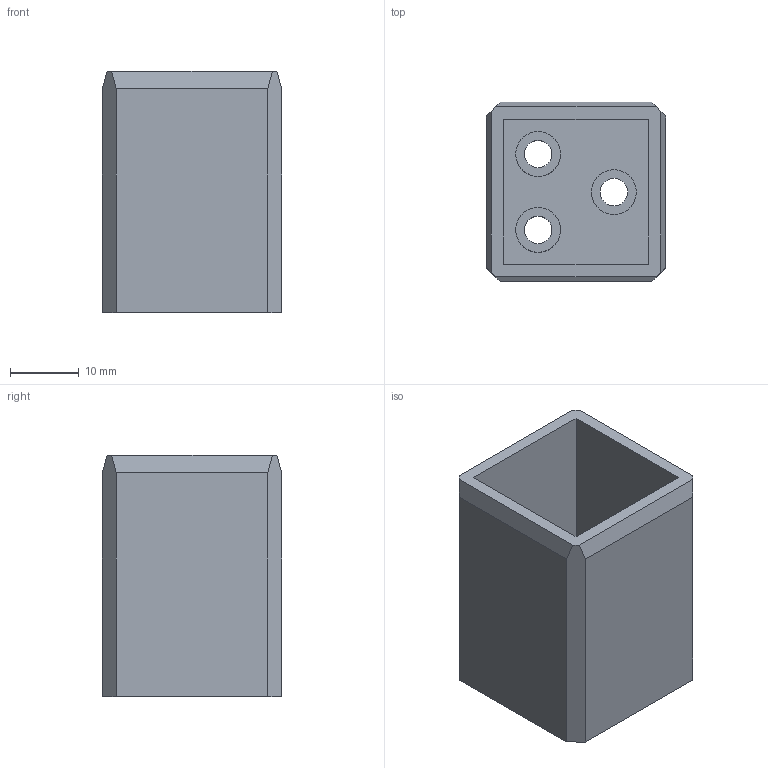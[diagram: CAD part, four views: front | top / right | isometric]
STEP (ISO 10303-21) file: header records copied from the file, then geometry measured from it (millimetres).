
FILE_DESCRIPTION (( 'STEP AP214' ), '1' );
FILE_NAME ('L15511.step', '2024-12-03T16:18:43', ( '' ), ( '' ), 'SwSTEP 2.0', 'SolidWorks 2023', '' );
FILE_SCHEMA (( 'AUTOMOTIVE_DESIGN' ));
Length unit declared in the file: millimetre
Products named in the file (1): L15511
Bounding box: 26 x 26 x 35 mm (x, y, z)
Volume: 9624.8 mm3; surface area: 9045.8 mm2
Topology: 1 solids, 1 shells, 28 faces, 66 edges, 44 vertices
Faces by surface type: plane 22, cylinder 6
Full cylindrical faces by diameter (mm): 4 x3, 6.5 x3
Entity records: 807 total; most frequent: CARTESIAN_POINT 133, DIRECTION 130, ORIENTED_EDGE 120, EDGE_CURVE 60, VECTOR 48, LINE 48, VERTEX_POINT 44, EDGE_LOOP 44
